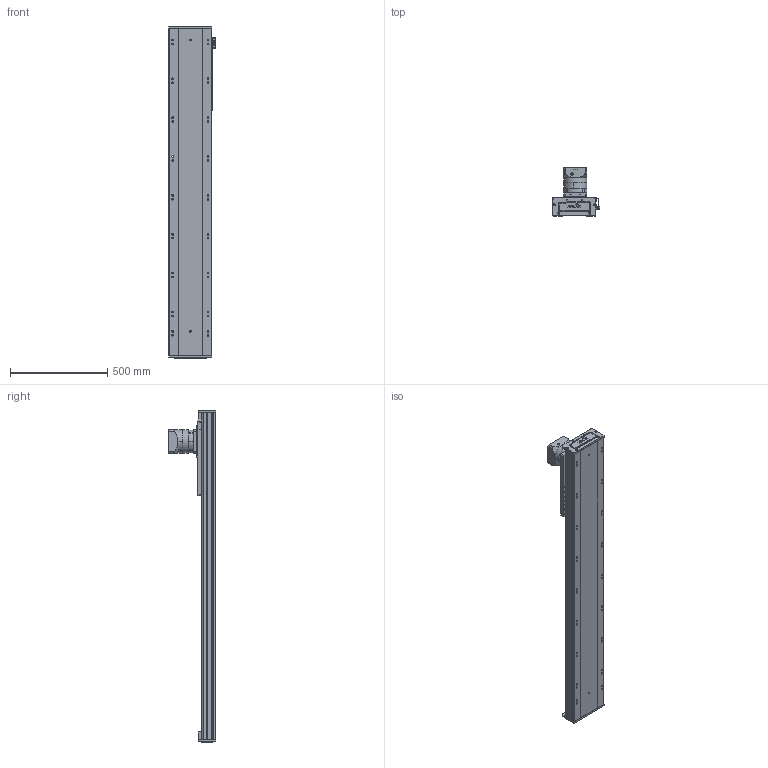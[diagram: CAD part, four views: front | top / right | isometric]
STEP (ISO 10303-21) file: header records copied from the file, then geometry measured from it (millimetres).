
FILE_DESCRIPTION (( 'STEP AP203' ), '1' );
FILE_NAME ('RY220-C-300-UK.SLDASM_1200.step', '2022-08-01T05:59:09', ( '' ), ( '' ), 'SwSTEP 2.0', 'SolidWorks 2016', '' );
FILE_SCHEMA (( 'CONFIG_CONTROL_DESIGN' ));
Length unit declared in the file: millimetre
Products named in the file (10): 滅袉蝶輸ㄗG412隅秶ㄘ; RY220菁釱MK-300_1200; RY220-齿条模组电机安装板; RY140直线电机感应器674光电安装座; RY220-C-300-UK.SLDASM_1200; RY220喘沭俋离覜茼え; RY220喘沭賑輸; 覜茼ん674; PF115L1-S2-22-58-110-145-M8; RY220喘沭綴裔啣
Assembly tree (12 placements, depth 2):
  RY220-C-300-UK.SLDASM_1200
    RY220菁釱MK-300_1200
    RY220喘沭賑輸
    RY220-齿条模组电机安装板
    PF115L1-S2-22-58-110-145-M8
    RY220喘沭綴裔啣  x2
    滅袉蝶輸ㄗG412隅秶ㄘ  x2
    RY140直线电机感应器674光电安装座
    覜茼ん674  x2
    RY220喘沭俋离覜茼え
Bounding box: 247 x 244.5 x 1709 mm (x, y, z)
Volume: 13470150 mm3; surface area: 2665660 mm2
Topology: 18 solids, 26 shells, 2016 faces, 5407 edges, 3436 vertices
Faces by surface type: cylinder 927, plane 751, cone 176, bspline 162
Entity records: 63805 total; most frequent: CARTESIAN_POINT 17564, DIRECTION 9443, ORIENTED_EDGE 9362, EDGE_CURVE 4681, AXIS2_PLACEMENT_3D 3583, VERTEX_POINT 3062, EDGE_LOOP 2291, LINE 2277
